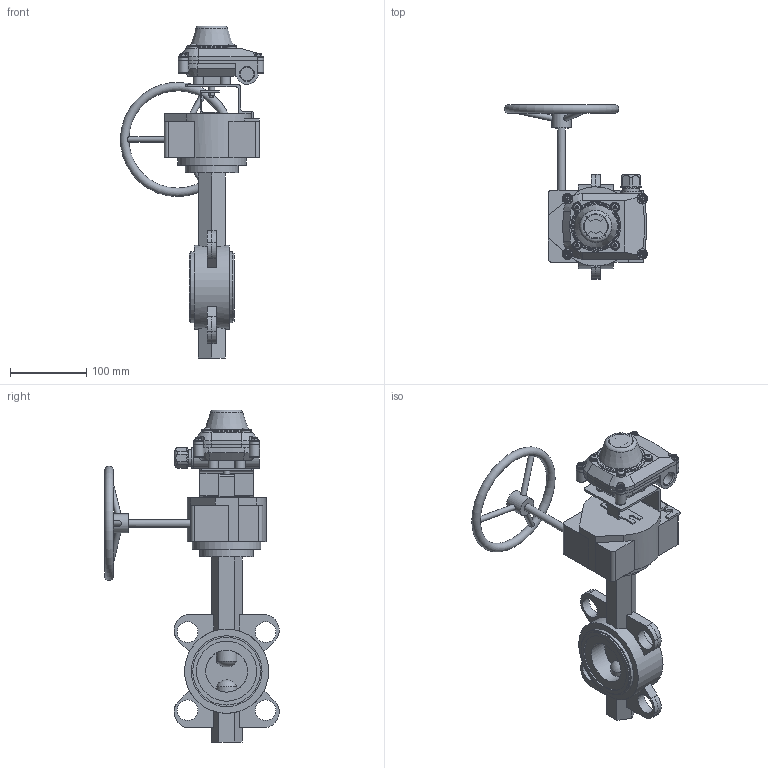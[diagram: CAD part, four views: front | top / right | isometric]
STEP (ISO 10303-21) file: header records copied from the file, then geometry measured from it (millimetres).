
FILE_DESCRIPTION(('STEP AP203'), '1');
FILE_NAME('3D_200-065-16-Ï.02_1', '', ('UNSPECIFIED'), ('UNSPECIFIED'), 'C3D Converter', 'C3D Toolkit', '');
FILE_SCHEMA(('CONFIG_CONTROL_DESIGN'));
Length unit declared in the file: millimetre
Bounding box: 187.97 x 229.08 x 436 mm (x, y, z)
Volume: 1812880.9 mm3; surface area: 257010.6 mm2
Topology: 4 solids, 6 shells, 1496 faces, 4282 edges, 2862 vertices
Faces by surface type: plane 1207, cylinder 178, torus 50, cone 45, bspline 16
Full cylindrical faces by diameter (mm): 4.917 x4, 6 x8, 7.368 x3, 8 x11, 10 x4, 10.026 x1, 13.5 x2, 16 x1, 17.294 x1, 18 x1, 22 x1, 25.064 x1, 27 x2, 27.141 x4, 32 x1, 55 x2, 61.5 x1, 70 x1, 79 x2, 89 x2, 90 x1, 93 x2, 110.562 x1
Entity records: 70839 total; most frequent: CARTESIAN_POINT 19903, ORIENTED_EDGE 8392, DIRECTION 7549, EDGE_CURVE 4196, LINE 3269, VECTOR 3269, VERTEX_POINT 2859, AXIS2_PLACEMENT_3D 2140
